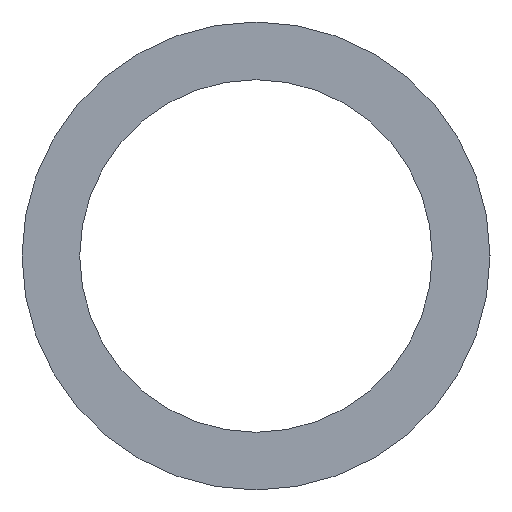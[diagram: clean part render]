
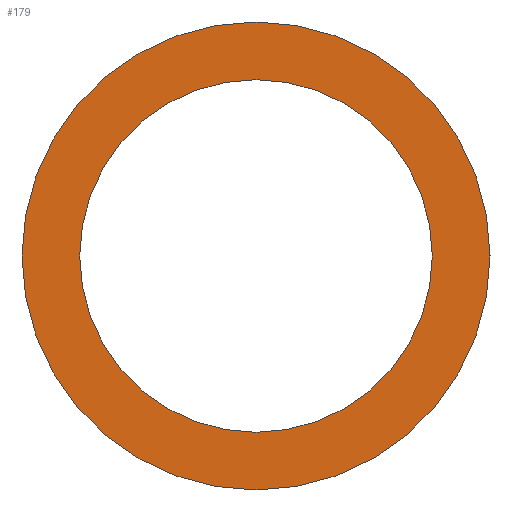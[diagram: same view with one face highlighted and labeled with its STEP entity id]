
A CAD part, left-side view. The second image highlights one B-rep face of the part: STEP entity #179.
In plain terms, the highlighted planar face has unit normal (-1, 0, 0).
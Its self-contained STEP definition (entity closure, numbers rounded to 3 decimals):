
#28 = CARTESIAN_POINT ( 'NONE',  ( 0., 0., 0. ) ) ;
#29 = DIRECTION ( 'NONE',  ( 1., 0., 0. ) ) ;
#30 = DIRECTION ( 'NONE',  ( 0., 0., -1. ) ) ;
#35 = CARTESIAN_POINT ( 'NONE',  ( 0., 0., 0. ) ) ;
#36 = DIRECTION ( 'NONE',  ( 1., 0., 0. ) ) ;
#37 = DIRECTION ( 'NONE',  ( 0., 0., -1. ) ) ;
#41 = CARTESIAN_POINT ( 'NONE',  ( 0., 0., 0. ) ) ;
#42 = DIRECTION ( 'NONE',  ( 1., 0., 0. ) ) ;
#43 = DIRECTION ( 'NONE',  ( 0., 0., -1. ) ) ;
#46 = CARTESIAN_POINT ( 'NONE',  ( 0., 0., 0. ) ) ;
#47 = DIRECTION ( 'NONE',  ( 1., 0., 0. ) ) ;
#48 = DIRECTION ( 'NONE',  ( 0., 0., -1. ) ) ;
#56 = CARTESIAN_POINT ( 'NONE',  ( 0., 0., -12.575 ) ) ;
#58 = CARTESIAN_POINT ( 'NONE',  ( 0., 0., 9.475 ) ) ;
#59 = CARTESIAN_POINT ( 'NONE',  ( 0., 0., 12.575 ) ) ;
#60 = CARTESIAN_POINT ( 'NONE',  ( 0., 0., -9.475 ) ) ;
#116 = EDGE_LOOP ( 'NONE', ( #217, #218 ) ) ;
#117 = EDGE_LOOP ( 'NONE', ( #219, #220 ) ) ;
#123 = CIRCLE ( 'NONE', #165, 9.475 ) ;
#142 = AXIS2_PLACEMENT_3D ( 'NONE', #46, #47, #48 ) ;
#144 = AXIS2_PLACEMENT_3D ( 'NONE', #41, #42, #43 ) ;
#146 = CIRCLE ( 'NONE', #144, 12.575 ) ;
#147 = AXIS2_PLACEMENT_3D ( 'NONE', #35, #36, #37 ) ;
#154 = AXIS2_PLACEMENT_3D ( 'NONE', #203, #197, #196 ) ;
#155 = CIRCLE ( 'NONE', #142, 9.475 ) ;
#156 = CIRCLE ( 'NONE', #147, 12.575 ) ;
#165 = AXIS2_PLACEMENT_3D ( 'NONE', #28, #29, #30 ) ;
#179 = ADVANCED_FACE ( 'NONE', ( #202, #201 ), #200, .F. ) ;
#187 = EDGE_CURVE ( 'NONE', #237, #242, #123, .T. ) ;
#190 = EDGE_CURVE ( 'NONE', #238, #239, #156, .T. ) ;
#192 = EDGE_CURVE ( 'NONE', #239, #238, #146, .T. ) ;
#193 = EDGE_CURVE ( 'NONE', #242, #237, #155, .T. ) ;
#196 = DIRECTION ( 'NONE',  ( 0., 0., -1. ) ) ;
#197 = DIRECTION ( 'NONE',  ( 1., 0., 0. ) ) ;
#200 = PLANE ( 'NONE',  #154 ) ;
#201 = FACE_BOUND ( 'NONE', #117, .T. ) ;
#202 = FACE_OUTER_BOUND ( 'NONE', #116, .T. ) ;
#203 = CARTESIAN_POINT ( 'NONE',  ( 0., 0., 0. ) ) ;
#217 = ORIENTED_EDGE ( 'NONE', *, *, #192, .F. ) ;
#218 = ORIENTED_EDGE ( 'NONE', *, *, #190, .F. ) ;
#219 = ORIENTED_EDGE ( 'NONE', *, *, #187, .T. ) ;
#220 = ORIENTED_EDGE ( 'NONE', *, *, #193, .T. ) ;
#237 = VERTEX_POINT ( 'NONE', #58 ) ;
#238 = VERTEX_POINT ( 'NONE', #56 ) ;
#239 = VERTEX_POINT ( 'NONE', #59 ) ;
#242 = VERTEX_POINT ( 'NONE', #60 ) ;
